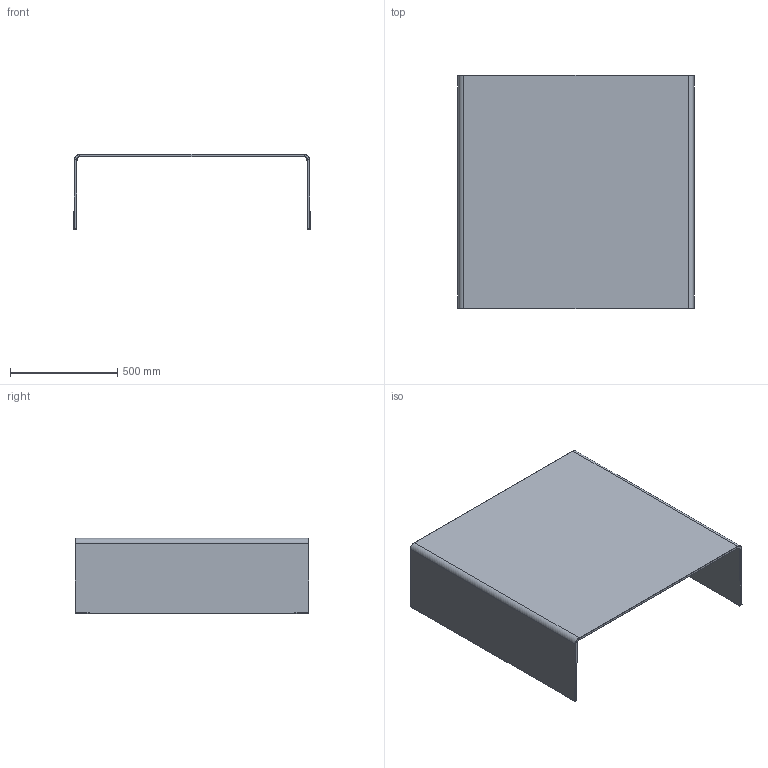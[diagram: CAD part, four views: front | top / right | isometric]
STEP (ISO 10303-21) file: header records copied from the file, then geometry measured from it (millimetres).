
FILE_DESCRIPTION((''),'2;1');
FILE_NAME('C:\AutodeskVault\AreaLavoro\Progetti\SoVeT Italia\2. Tavolini_Coffee tables\Bridge\Web file\Bridge Web\P4126.stp','2012-06-12T17:06:15',('Gianluca'),('So.Ve.T. s.r.l.'),'Autodesk Inventor 2013','Autodesk Inventor 2013','IL PROGETTO E'' DI ESCLUSIVA PROPRIETA'' DELLA SO.VE.T. srl. E'' VIETATA OGNI RIPRODUZIONE TOTALE O PARZIALE E QUALSIASI UTILIZZO NON AUTORIZZATO. ');
FILE_SCHEMA(('AUTOMOTIVE_DESIGN { 1 0 10303 214 1 1 1 1 }'));
Length unit declared in the file: millimetre
Products named in the file (1): P4126 Contorno semplificato
Bounding box: 1104.94 x 1090 x 351.07 mm (x, y, z)
Volume: 22971325.3 mm3; surface area: 3894672.4 mm2
Topology: 1 solids, 1 shells, 134 faces, 344 edges, 204 vertices
Faces by surface type: plane 78, cylinder 40, cone 16
Entity records: 4173 total; most frequent: DIRECTION 710, ORIENTED_EDGE 688, CARTESIAN_POINT 683, EDGE_CURVE 344, VECTOR 248, LINE 248, AXIS2_PLACEMENT_3D 231, VERTEX_POINT 204
